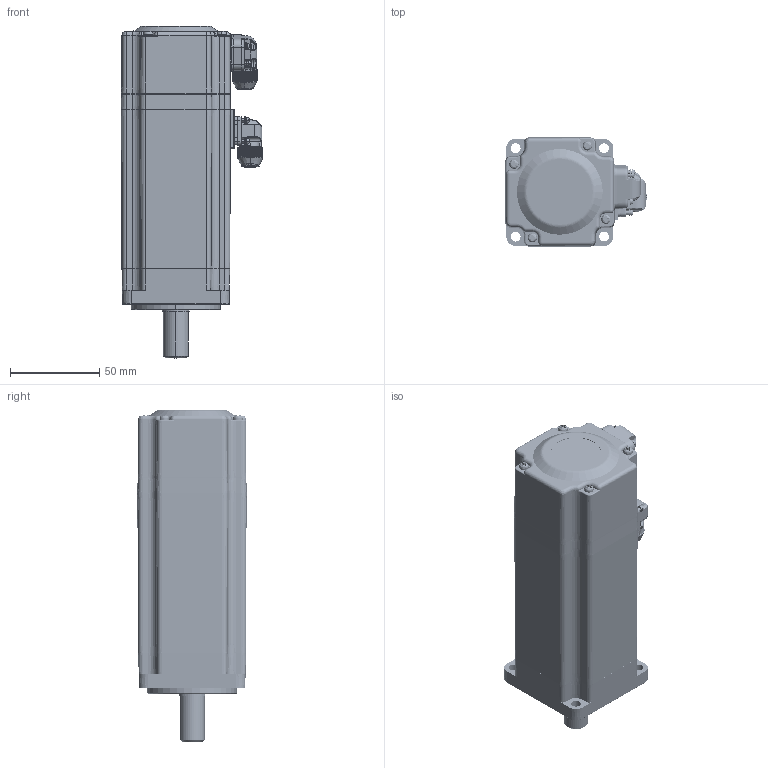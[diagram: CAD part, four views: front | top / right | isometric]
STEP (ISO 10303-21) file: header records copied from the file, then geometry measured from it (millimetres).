
FILE_DESCRIPTION((''),'2;1');
FILE_NAME('60-600W','2017-05-26T',('Administrator'),(''),'PRO/ENGINEER BY PARAMETRIC TECHNOLOGY CORPORATION, 2010280','PRO/ENGINEER BY PARAMETRIC TECHNOLOGY CORPORATION, 2010280','');
FILE_SCHEMA(('CONFIG_CONTROL_DESIGN'));
Products named in the file (1): 60-600W
Bounding box: 79.31 x 61.23 x 185.89 mm (x, y, z)
Volume: 451331.1 mm3; surface area: 80067.7 mm2
Topology: 33 solids, 61 shells, 7914 faces, 19812 edges, 11779 vertices
Faces by surface type: plane 4479, cylinder 1386, bspline 1144, cone 463, sphere 178, torus 166, extrusion 85, revolution 13
Entity records: 296856 total; most frequent: CARTESIAN_POINT 119423, ORIENTED_EDGE 39020, DIRECTION 32586, EDGE_CURVE 19630, VECTOR 12655, LINE 12570, VERTEX_POINT 11778, AXIS2_PLACEMENT_3D 9959
